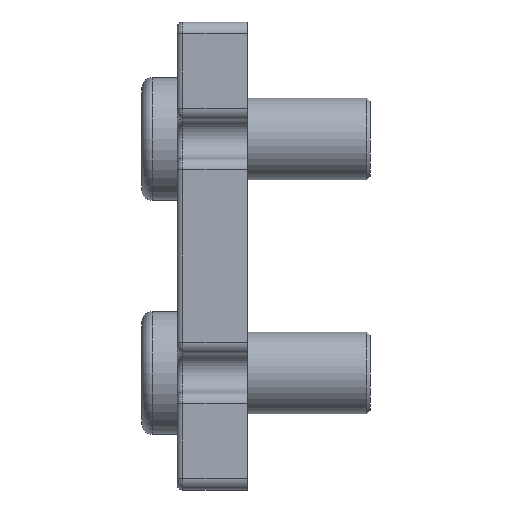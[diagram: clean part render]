
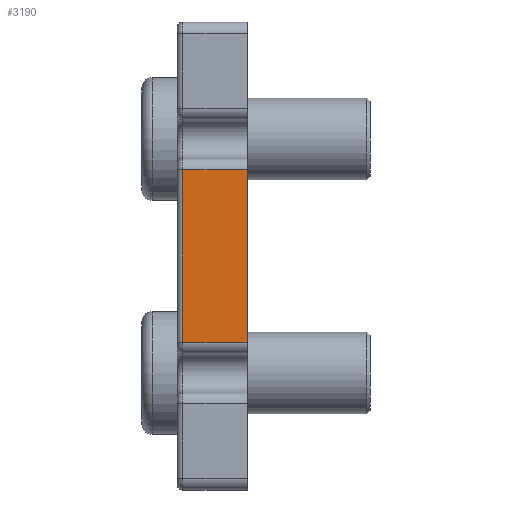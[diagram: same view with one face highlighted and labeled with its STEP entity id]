
A CAD part, left-side view. The second image highlights one B-rep face of the part: STEP entity #3190.
In plain terms, the highlighted planar face has unit normal (-1, 0, 0).
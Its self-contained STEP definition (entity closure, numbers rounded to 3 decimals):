
#41=PLANE('',#3483);
#171=LINE('',#5120,#432);
#173=LINE('',#5129,#434);
#174=LINE('',#5131,#435);
#175=LINE('',#5132,#436);
#432=VECTOR('',#3989,1000.);
#434=VECTOR('',#3997,1000.);
#435=VECTOR('',#4000,1000.);
#436=VECTOR('',#4001,1000.);
#767=FACE_OUTER_BOUND('',#970,.T.);
#970=EDGE_LOOP('',(#2283,#2284,#2285,#2286));
#1449=VERTEX_POINT('',#5113);
#1450=VERTEX_POINT('',#5118);
#1452=VERTEX_POINT('',#5123);
#1454=VERTEX_POINT('',#5127);
#1768=EDGE_CURVE('',#1449,#1450,#171,.T.);
#1772=EDGE_CURVE('',#1452,#1454,#173,.T.);
#1773=EDGE_CURVE('',#1452,#1450,#174,.T.);
#1774=EDGE_CURVE('',#1454,#1449,#175,.T.);
#2283=ORIENTED_EDGE('',*,*,#1773,.F.);
#2284=ORIENTED_EDGE('',*,*,#1772,.T.);
#2285=ORIENTED_EDGE('',*,*,#1774,.T.);
#2286=ORIENTED_EDGE('',*,*,#1768,.T.);
#3190=ADVANCED_FACE('',(#767),#41,.T.);
#3483=AXIS2_PLACEMENT_3D('',#5130,#3998,#3999);
#3989=DIRECTION('',(0.,-1.,0.));
#3997=DIRECTION('',(0.,1.,0.));
#3998=DIRECTION('center_axis',(-1.,0.,0.));
#3999=DIRECTION('ref_axis',(0.,0.,1.));
#4000=DIRECTION('',(0.,0.,-1.));
#4001=DIRECTION('',(0.,0.,-1.));
#5113=CARTESIAN_POINT('',(-42.549,11.513,-14.75));
#5118=CARTESIAN_POINT('',(-42.549,0.513,-14.75));
#5120=CARTESIAN_POINT('',(-42.549,0.513,-14.75));
#5123=CARTESIAN_POINT('',(-42.549,0.513,14.75));
#5127=CARTESIAN_POINT('',(-42.549,11.513,14.75));
#5129=CARTESIAN_POINT('',(-42.549,12.513,14.75));
#5130=CARTESIAN_POINT('Origin',(-42.549,12.513,0.));
#5131=CARTESIAN_POINT('',(-42.549,0.513,0.));
#5132=CARTESIAN_POINT('',(-42.549,11.513,0.));
